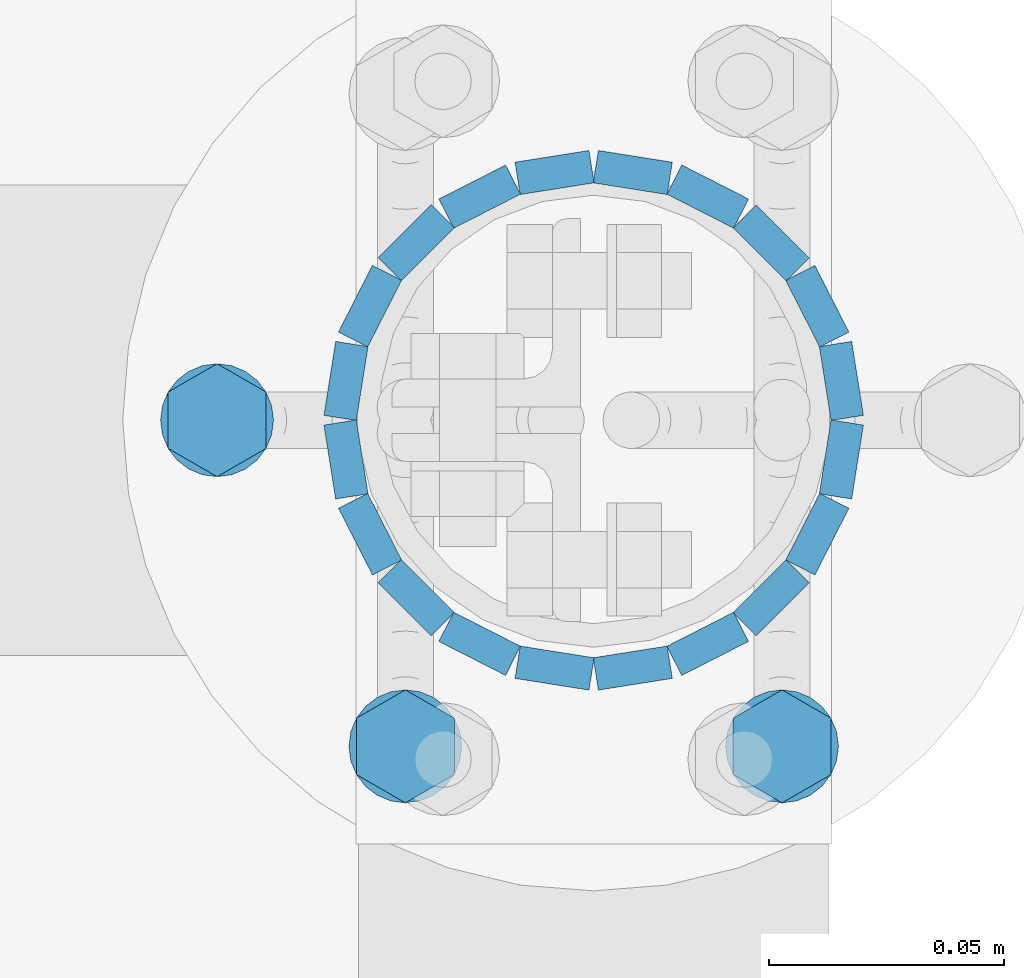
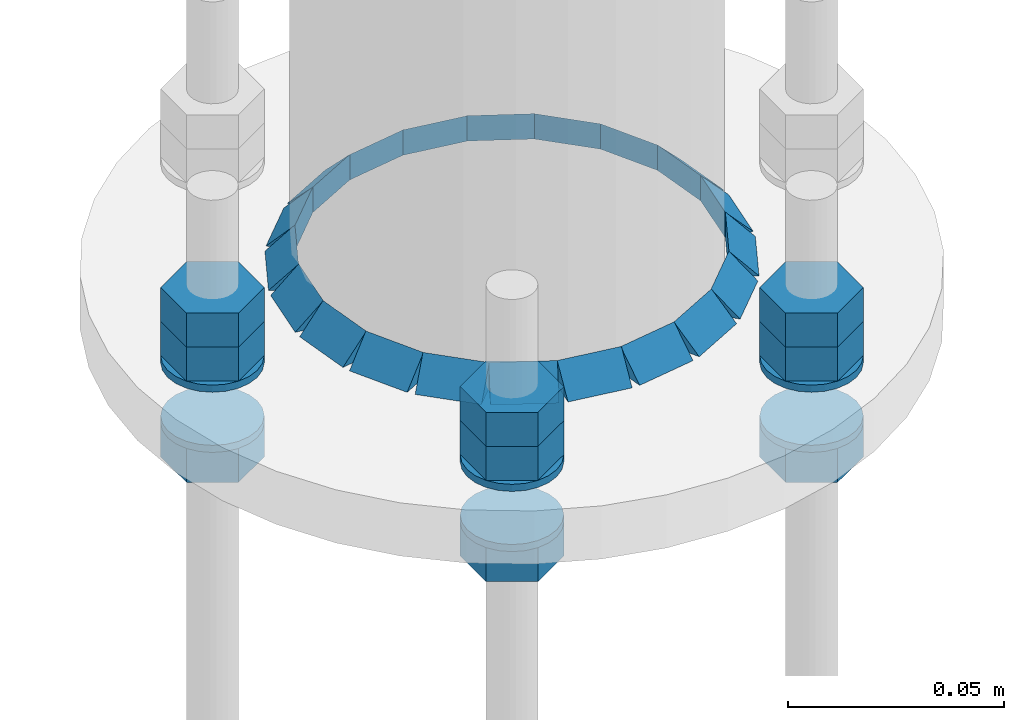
# One storey, part 63 of 84: 40 fasteners, 15 mechanical fasteners.
"""IFC4 building model written with IfcOpenShell, lengths in metres."""

from ifc_helpers import new_model, si_unit, frame, origin_with_axes, place, context, project, spatial, polyline, outline, extrude, type_object, element, save


model = new_model("IFC4")

# Units and contexts
model_context = context("Model", 3, precision=1e-05, world=origin_with_axes())
ifc_project = project(units=[si_unit("LENGTHUNIT", "METRE"), si_unit("AREAUNIT", "SQUARE_METRE"), si_unit("VOLUMEUNIT", "CUBIC_METRE"), si_unit("MASSUNIT", "GRAM", prefix="KILO"), si_unit("TIMEUNIT", "SECOND"), si_unit("PLANEANGLEUNIT", "RADIAN"), si_unit("SOLIDANGLEUNIT", "STERADIAN"), si_unit("THERMODYNAMICTEMPERATUREUNIT", "DEGREE_CELSIUS")], contexts=[model_context])

# Site, building, storey
placement_1 = place(None, origin_with_axes())
site = spatial("IfcSite", under=ifc_project, at=placement_1, Name="Italia", CompositionType="ELEMENT")
building = spatial("IfcBuilding", under=site, at=placement_1, Name="Tettoia", CompositionType="ELEMENT")
storey_placement = place(None, frame((0.0, 0.0, 4.199999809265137), z_axis=(0.0, 0.0, 1.0), x_axis=(1.0, 0.0, 0.0)))
storey = spatial("IfcBuildingStorey", under=building, at=storey_placement, Name="Storey 1", CompositionType="ELEMENT", Elevation=4.199999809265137)

# Fasteners
fastener_type_1 = type_object("IfcFastenerType", Name="Collegamento -010_0110", PredefinedType="WELD")
placement_2 = place(placement_1, origin_with_axes())
fastener_1_placement = place(placement_2, origin_with_axes())
element("IfcFastener", 1, at=fastener_1_placement, inside=storey, type_object=fastener_type_1, Name="Collegamento -010_0110", context=model_context, shape_type="SweptSolid", body=[
    extrude(outline(polyline([(0.0, 0.0), (0.00695705, 0.00717354), (0.00695705, 0.0), (0.0, 0.0)])), frame((11.3067, 10.0248, 4.01495), z_axis=(-0.987678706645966, 0.156495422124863, 0.0), x_axis=(-0.156495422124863, -0.987678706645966, 0.0)), (0.0, 0.0, 1.0), 0.0158991),
])
fastener_type_2 = type_object("IfcFastenerType", Name="Collegamento -010_0110", PredefinedType="WELD")
fastener_2_placement = place(placement_2, origin_with_axes())
element("IfcFastener", 2, at=fastener_2_placement, inside=storey, type_object=fastener_type_2, Name="Collegamento -010_0110", context=model_context, shape_type="SweptSolid", body=[
    extrude(outline(polyline([(0.0, 0.0), (0.00695992, 0.00717354), (0.00695992, 0.0), (0.0, 0.0)])), frame((11.3229, 10.017, 4.01495), z_axis=(-0.891030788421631, 0.453942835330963, 0.0), x_axis=(-0.453942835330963, -0.891030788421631, 0.0)), (0.0, 0.0, 1.0), 0.0158994),
])
fastener_type_3 = type_object("IfcFastenerType", Name="Collegamento -010_0110", PredefinedType="WELD")
fastener_3_placement = place(placement_2, origin_with_axes())
element("IfcFastener", 3, at=fastener_3_placement, inside=storey, type_object=fastener_type_3, Name="Collegamento -010_0110", context=model_context, shape_type="SweptSolid", body=[
    extrude(outline(polyline([(0.0, 0.0), (0.00695801, 0.00717354), (0.00695801, 0.0), (0.0, 0.0)])), frame((11.3358, 10.0045, 4.01495), z_axis=(-0.70710676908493, 0.70710676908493, 0.0), x_axis=(-0.70710676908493, -0.70710676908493, 0.0)), (0.0, 0.0, 1.0), 0.0158998),
])
fastener_type_4 = type_object("IfcFastenerType", Name="Collegamento -010_0110", PredefinedType="WELD")
fastener_4_placement = place(placement_2, origin_with_axes())
element("IfcFastener", 4, at=fastener_4_placement, inside=storey, type_object=fastener_type_4, Name="Collegamento -010_0110", context=model_context, shape_type="SweptSolid", body=[
    extrude(outline(polyline([(0.0, 0.0), (0.00695801, 0.00717354), (0.00695801, 0.0), (0.0, 0.0)])), frame((11.3442, 9.9887, 4.01495), z_axis=(-0.453942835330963, 0.891030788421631, 0.0), x_axis=(-0.891030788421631, -0.453942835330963, 0.0)), (0.0, 0.0, 1.0), 0.0158994),
])
fastener_type_5 = type_object("IfcFastenerType", Name="Collegamento -010_0110", PredefinedType="WELD")
fastener_5_placement = place(placement_2, origin_with_axes())
element("IfcFastener", 5, at=fastener_5_placement, inside=storey, type_object=fastener_type_5, Name="Collegamento -010_0110", context=model_context, shape_type="SweptSolid", body=[
    extrude(outline(polyline([(0.0, 0.0), (0.00695992, 0.00717354), (0.00695992, 0.0), (0.0, 0.0)])), frame((11.3473, 9.97103, 4.01495), z_axis=(-0.156495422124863, 0.987678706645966, 0.0), x_axis=(-0.987678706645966, -0.156495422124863, 0.0)), (0.0, 0.0, 1.0), 0.0158991),
])
fastener_type_6 = type_object("IfcFastenerType", Name="Collegamento -010_0110", PredefinedType="WELD")
fastener_6_placement = place(placement_2, origin_with_axes())
element("IfcFastener", 6, at=fastener_6_placement, inside=storey, type_object=fastener_type_6, Name="Collegamento -010_0110", context=model_context, shape_type="SweptSolid", body=[
    extrude(outline(polyline([(0.0, 0.0), (0.00695801, 0.00717354), (0.00695801, 0.0), (0.0, 0.0)])), frame((11.3448, 9.95327, 4.01495), z_axis=(0.156495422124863, 0.987678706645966, 0.0), x_axis=(-0.987678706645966, 0.156495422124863, 0.0)), (0.0, 0.0, 1.0), 0.0158991),
])
fastener_type_7 = type_object("IfcFastenerType", Name="Collegamento -010_0110", PredefinedType="WELD")
fastener_7_placement = place(placement_2, origin_with_axes())
element("IfcFastener", 7, at=fastener_7_placement, inside=storey, type_object=fastener_type_7, Name="Collegamento -010_0110", context=model_context, shape_type="SweptSolid", body=[
    extrude(outline(polyline([(0.0, 0.0), (0.00695848, 0.00717354), (0.00695848, 0.0), (0.0, 0.0)])), frame((11.337, 9.93714, 4.01495), z_axis=(0.453942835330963, 0.891030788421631, 0.0), x_axis=(-0.891030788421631, 0.453942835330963, 0.0)), (0.0, 0.0, 1.0), 0.0158994),
])
fastener_type_8 = type_object("IfcFastenerType", Name="Collegamento -010_0110", PredefinedType="WELD")
fastener_8_placement = place(placement_2, origin_with_axes())
element("IfcFastener", 8, at=fastener_8_placement, inside=storey, type_object=fastener_type_8, Name="Collegamento -010_0110", context=model_context, shape_type="SweptSolid", body=[
    extrude(outline(polyline([(0.0, 0.0), (0.00695801, 0.00717354), (0.00695801, 0.0), (0.0, 0.0)])), frame((11.3245, 9.92422, 4.01495), z_axis=(0.70710676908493, 0.70710676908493, 0.0), x_axis=(-0.70710676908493, 0.70710676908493, 0.0)), (0.0, 0.0, 1.0), 0.0158998),
])
fastener_type_9 = type_object("IfcFastenerType", Name="Collegamento -010_0110", PredefinedType="WELD")
fastener_9_placement = place(placement_2, origin_with_axes())
element("IfcFastener", 9, at=fastener_9_placement, inside=storey, type_object=fastener_type_9, Name="Collegamento -010_0110", context=model_context, shape_type="SweptSolid", body=[
    extrude(outline(polyline([(0.0, 0.0), (0.00695801, 0.00717354), (0.00695801, 0.0), (0.0, 0.0)])), frame((11.3087, 9.91579, 4.01495), z_axis=(0.891030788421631, 0.453942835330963, 0.0), x_axis=(-0.453942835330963, 0.891030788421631, 0.0)), (0.0, 0.0, 1.0), 0.0158994),
])
fastener_type_10 = type_object("IfcFastenerType", Name="Collegamento -010_0110", PredefinedType="WELD")
fastener_10_placement = place(placement_2, origin_with_axes())
element("IfcFastener", 10, at=fastener_10_placement, inside=storey, type_object=fastener_type_10, Name="Collegamento -010_0110", context=model_context, shape_type="SweptSolid", body=[
    extrude(outline(polyline([(0.0, 0.0), (0.00695801, 0.00717354), (0.00695801, 0.0), (0.0, 0.0)])), frame((11.291, 9.91267, 4.01495), z_axis=(0.987678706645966, 0.156495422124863, 0.0), x_axis=(-0.156495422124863, 0.987678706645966, 0.0)), (0.0, 0.0, 1.0), 0.0158991),
])
fastener_type_11 = type_object("IfcFastenerType", Name="Collegamento -010_0110", PredefinedType="WELD")
fastener_11_placement = place(placement_2, origin_with_axes())
element("IfcFastener", 11, at=fastener_11_placement, inside=storey, type_object=fastener_type_11, Name="Collegamento -010_0110", context=model_context, shape_type="SweptSolid", body=[
    extrude(outline(polyline([(0.0, 0.0), (0.00695705, 0.00717354), (0.00695705, 0.0), (0.0, 0.0)])), frame((11.2733, 9.91516, 4.01495), z_axis=(0.987678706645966, -0.156495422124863, 0.0), x_axis=(0.156495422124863, 0.987678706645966, 0.0)), (0.0, 0.0, 1.0), 0.0158991),
])
fastener_type_12 = type_object("IfcFastenerType", Name="Collegamento -010_0110", PredefinedType="WELD")
fastener_12_placement = place(placement_2, origin_with_axes())
element("IfcFastener", 12, at=fastener_12_placement, inside=storey, type_object=fastener_type_12, Name="Collegamento -010_0110", context=model_context, shape_type="SweptSolid", body=[
    extrude(outline(polyline([(0.0, 0.0), (0.00695896, 0.00717354), (0.00695896, 0.0), (0.0, 0.0)])), frame((11.2571, 9.92301, 4.01495), z_axis=(0.891030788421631, -0.453942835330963, 0.0), x_axis=(0.453942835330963, 0.891030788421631, 0.0)), (0.0, 0.0, 1.0), 0.0158994),
])
fastener_type_13 = type_object("IfcFastenerType", Name="Collegamento -010_0110", PredefinedType="WELD")
fastener_13_placement = place(placement_2, origin_with_axes())
element("IfcFastener", 13, at=fastener_13_placement, inside=storey, type_object=fastener_type_13, Name="Collegamento -010_0110", context=model_context, shape_type="SweptSolid", body=[
    extrude(outline(polyline([(0.0, 0.0), (0.00695801, 0.00717354), (0.00695801, 0.0), (0.0, 0.0)])), frame((11.2442, 9.93547, 4.01495), z_axis=(0.70710676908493, -0.70710676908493, 0.0), x_axis=(0.70710676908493, 0.70710676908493, 0.0)), (0.0, 0.0, 1.0), 0.0158998),
])
fastener_type_14 = type_object("IfcFastenerType", Name="Collegamento -010_0110", PredefinedType="WELD")
fastener_14_placement = place(placement_2, origin_with_axes())
element("IfcFastener", 14, at=fastener_14_placement, inside=storey, type_object=fastener_type_14, Name="Collegamento -010_0110", context=model_context, shape_type="SweptSolid", body=[
    extrude(outline(polyline([(0.0, 0.0), (0.00695992, 0.00717354), (0.00695992, 0.0), (0.0, 0.0)])), frame((11.2358, 9.9513, 4.01495), z_axis=(0.453942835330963, -0.891030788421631, 0.0), x_axis=(0.891030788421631, 0.453942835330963, 0.0)), (0.0, 0.0, 1.0), 0.0158994),
])
fastener_type_15 = type_object("IfcFastenerType", Name="Collegamento -010_0110", PredefinedType="WELD")
fastener_15_placement = place(placement_2, origin_with_axes())
element("IfcFastener", 15, at=fastener_15_placement, inside=storey, type_object=fastener_type_15, Name="Collegamento -010_0110", context=model_context, shape_type="SweptSolid", body=[
    extrude(outline(polyline([(0.0, 0.0), (0.00695896, 0.00717354), (0.00695896, 0.0), (0.0, 0.0)])), frame((11.2327, 9.96897, 4.01495), z_axis=(0.156495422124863, -0.987678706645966, 0.0), x_axis=(0.987678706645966, 0.156495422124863, 0.0)), (0.0, 0.0, 1.0), 0.0158991),
])
fastener_type_16 = type_object("IfcFastenerType", Name="Collegamento -010_0110", PredefinedType="WELD")
fastener_16_placement = place(placement_2, origin_with_axes())
element("IfcFastener", 16, at=fastener_16_placement, inside=storey, type_object=fastener_type_16, Name="Collegamento -010_0110", context=model_context, shape_type="SweptSolid", body=[
    extrude(outline(polyline([(0.0, 0.0), (0.00695801, 0.00717354), (0.00695801, 0.0), (0.0, 0.0)])), frame((11.2352, 9.98674, 4.01495), z_axis=(-0.156495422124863, -0.987678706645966, 0.0), x_axis=(0.987678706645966, -0.156495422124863, 0.0)), (0.0, 0.0, 1.0), 0.0158991),
])
fastener_type_17 = type_object("IfcFastenerType", Name="Collegamento -010_0110", PredefinedType="WELD")
fastener_17_placement = place(placement_2, origin_with_axes())
element("IfcFastener", 17, at=fastener_17_placement, inside=storey, type_object=fastener_type_17, Name="Collegamento -010_0110", context=model_context, shape_type="SweptSolid", body=[
    extrude(outline(polyline([(0.0, 0.0), (0.00695944, 0.00717354), (0.00695944, 0.0), (0.0, 0.0)])), frame((11.243, 10.0029, 4.01495), z_axis=(-0.453942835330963, -0.891030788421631, 0.0), x_axis=(0.891030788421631, -0.453942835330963, 0.0)), (0.0, 0.0, 1.0), 0.0158994),
])
fastener_type_18 = type_object("IfcFastenerType", Name="Collegamento -010_0110", PredefinedType="WELD")
fastener_18_placement = place(placement_2, origin_with_axes())
element("IfcFastener", 18, at=fastener_18_placement, inside=storey, type_object=fastener_type_18, Name="Collegamento -010_0110", context=model_context, shape_type="SweptSolid", body=[
    extrude(outline(polyline([(0.0, 0.0), (0.00695801, 0.00717354), (0.00695801, 0.0), (0.0, 0.0)])), frame((11.2555, 10.0158, 4.01495), z_axis=(-0.70710676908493, -0.70710676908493, 0.0), x_axis=(0.70710676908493, -0.70710676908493, 0.0)), (0.0, 0.0, 1.0), 0.0158998),
])
fastener_type_19 = type_object("IfcFastenerType", Name="Collegamento -010_0110", PredefinedType="WELD")
fastener_19_placement = place(placement_2, origin_with_axes())
element("IfcFastener", 19, at=fastener_19_placement, inside=storey, type_object=fastener_type_19, Name="Collegamento -010_0110", context=model_context, shape_type="SweptSolid", body=[
    extrude(outline(polyline([(0.0, 0.0), (0.00695753, 0.00717354), (0.00695753, 0.0), (0.0, 0.0)])), frame((11.2713, 10.0242, 4.01495), z_axis=(-0.891030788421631, -0.453942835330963, 0.0), x_axis=(0.453942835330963, -0.891030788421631, 0.0)), (0.0, 0.0, 1.0), 0.0158994),
])
fastener_type_20 = type_object("IfcFastenerType", Name="Collegamento -010_0110", PredefinedType="WELD")
fastener_20_placement = place(placement_2, origin_with_axes())
element("IfcFastener", 20, at=fastener_20_placement, inside=storey, type_object=fastener_type_20, Name="Collegamento -010_0110", context=model_context, shape_type="SweptSolid", body=[
    extrude(outline(polyline([(0.0, 0.0), (0.00695801, 0.00717354), (0.00695801, 0.0), (0.0, 0.0)])), frame((11.289, 10.0273, 4.01495), z_axis=(-0.987678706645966, -0.156495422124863, 0.0), x_axis=(0.156495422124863, -0.987678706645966, 0.0)), (0.0, 0.0, 1.0), 0.0158991),
])
fastener_type_21 = type_object("IfcFastenerType", Name="Collegamento -010_0110", PredefinedType="WELD")
fastener_21_placement = place(placement_2, origin_with_axes())
element("IfcFastener", 21, at=fastener_21_placement, inside=storey, type_object=fastener_type_21, Name="Collegamento -010_0110", context=model_context, shape_type="SweptSolid", body=[
    extrude(outline(polyline([(0.0, 0.0), (0.00695705, 0.00717354), (0.00695705, 0.0), (0.0, 0.0)])), frame((11.3067, 10.0248, 4.01495), z_axis=(-0.987678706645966, 0.156495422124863, 0.0), x_axis=(-0.156495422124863, -0.987678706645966, 0.0)), (0.0, 0.0, 1.0), 0.0158991),
])
fastener_type_22 = type_object("IfcFastenerType", Name="Collegamento -010_0110", PredefinedType="WELD")
fastener_22_placement = place(placement_2, origin_with_axes())
element("IfcFastener", 22, at=fastener_22_placement, inside=storey, type_object=fastener_type_22, Name="Collegamento -010_0110", context=model_context, shape_type="SweptSolid", body=[
    extrude(outline(polyline([(0.0, 0.0), (0.00695992, 0.00717354), (0.00695992, 0.0), (0.0, 0.0)])), frame((11.3229, 10.017, 4.01495), z_axis=(-0.891030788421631, 0.453942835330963, 0.0), x_axis=(-0.453942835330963, -0.891030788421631, 0.0)), (0.0, 0.0, 1.0), 0.0158994),
])
fastener_type_23 = type_object("IfcFastenerType", Name="Collegamento -010_0110", PredefinedType="WELD")
fastener_23_placement = place(placement_2, origin_with_axes())
element("IfcFastener", 23, at=fastener_23_placement, inside=storey, type_object=fastener_type_23, Name="Collegamento -010_0110", context=model_context, shape_type="SweptSolid", body=[
    extrude(outline(polyline([(0.0, 0.0), (0.00695801, 0.00717354), (0.00695801, 0.0), (0.0, 0.0)])), frame((11.3358, 10.0045, 4.01495), z_axis=(-0.70710676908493, 0.70710676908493, 0.0), x_axis=(-0.70710676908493, -0.70710676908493, 0.0)), (0.0, 0.0, 1.0), 0.0158998),
])
fastener_type_24 = type_object("IfcFastenerType", Name="Collegamento -010_0110", PredefinedType="WELD")
fastener_24_placement = place(placement_2, origin_with_axes())
element("IfcFastener", 24, at=fastener_24_placement, inside=storey, type_object=fastener_type_24, Name="Collegamento -010_0110", context=model_context, shape_type="SweptSolid", body=[
    extrude(outline(polyline([(0.0, 0.0), (0.00695801, 0.00717354), (0.00695801, 0.0), (0.0, 0.0)])), frame((11.3442, 9.9887, 4.01495), z_axis=(-0.453942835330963, 0.891030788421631, 0.0), x_axis=(-0.891030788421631, -0.453942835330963, 0.0)), (0.0, 0.0, 1.0), 0.0158994),
])
fastener_type_25 = type_object("IfcFastenerType", Name="Collegamento -010_0110", PredefinedType="WELD")
fastener_25_placement = place(placement_2, origin_with_axes())
element("IfcFastener", 25, at=fastener_25_placement, inside=storey, type_object=fastener_type_25, Name="Collegamento -010_0110", context=model_context, shape_type="SweptSolid", body=[
    extrude(outline(polyline([(0.0, 0.0), (0.00695992, 0.00717354), (0.00695992, 0.0), (0.0, 0.0)])), frame((11.3473, 9.97103, 4.01495), z_axis=(-0.156495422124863, 0.987678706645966, 0.0), x_axis=(-0.987678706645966, -0.156495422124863, 0.0)), (0.0, 0.0, 1.0), 0.0158991),
])
fastener_type_26 = type_object("IfcFastenerType", Name="Collegamento -010_0110", PredefinedType="WELD")
fastener_26_placement = place(placement_2, origin_with_axes())
element("IfcFastener", 26, at=fastener_26_placement, inside=storey, type_object=fastener_type_26, Name="Collegamento -010_0110", context=model_context, shape_type="SweptSolid", body=[
    extrude(outline(polyline([(0.0, 0.0), (0.00695801, 0.00717354), (0.00695801, 0.0), (0.0, 0.0)])), frame((11.3448, 9.95327, 4.01495), z_axis=(0.156495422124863, 0.987678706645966, 0.0), x_axis=(-0.987678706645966, 0.156495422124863, 0.0)), (0.0, 0.0, 1.0), 0.0158991),
])
fastener_type_27 = type_object("IfcFastenerType", Name="Collegamento -010_0110", PredefinedType="WELD")
fastener_27_placement = place(placement_2, origin_with_axes())
element("IfcFastener", 27, at=fastener_27_placement, inside=storey, type_object=fastener_type_27, Name="Collegamento -010_0110", context=model_context, shape_type="SweptSolid", body=[
    extrude(outline(polyline([(0.0, 0.0), (0.00695848, 0.00717354), (0.00695848, 0.0), (0.0, 0.0)])), frame((11.337, 9.93714, 4.01495), z_axis=(0.453942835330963, 0.891030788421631, 0.0), x_axis=(-0.891030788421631, 0.453942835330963, 0.0)), (0.0, 0.0, 1.0), 0.0158994),
])
fastener_type_28 = type_object("IfcFastenerType", Name="Collegamento -010_0110", PredefinedType="WELD")
fastener_28_placement = place(placement_2, origin_with_axes())
element("IfcFastener", 28, at=fastener_28_placement, inside=storey, type_object=fastener_type_28, Name="Collegamento -010_0110", context=model_context, shape_type="SweptSolid", body=[
    extrude(outline(polyline([(0.0, 0.0), (0.00695801, 0.00717354), (0.00695801, 0.0), (0.0, 0.0)])), frame((11.3245, 9.92422, 4.01495), z_axis=(0.70710676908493, 0.70710676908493, 0.0), x_axis=(-0.70710676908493, 0.70710676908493, 0.0)), (0.0, 0.0, 1.0), 0.0158998),
])
fastener_type_29 = type_object("IfcFastenerType", Name="Collegamento -010_0110", PredefinedType="WELD")
fastener_29_placement = place(placement_2, origin_with_axes())
element("IfcFastener", 29, at=fastener_29_placement, inside=storey, type_object=fastener_type_29, Name="Collegamento -010_0110", context=model_context, shape_type="SweptSolid", body=[
    extrude(outline(polyline([(0.0, 0.0), (0.00695801, 0.00717354), (0.00695801, 0.0), (0.0, 0.0)])), frame((11.3087, 9.91579, 4.01495), z_axis=(0.891030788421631, 0.453942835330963, 0.0), x_axis=(-0.453942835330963, 0.891030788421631, 0.0)), (0.0, 0.0, 1.0), 0.0158994),
])
fastener_type_30 = type_object("IfcFastenerType", Name="Collegamento -010_0110", PredefinedType="WELD")
fastener_30_placement = place(placement_2, origin_with_axes())
element("IfcFastener", 30, at=fastener_30_placement, inside=storey, type_object=fastener_type_30, Name="Collegamento -010_0110", context=model_context, shape_type="SweptSolid", body=[
    extrude(outline(polyline([(0.0, 0.0), (0.00695801, 0.00717354), (0.00695801, 0.0), (0.0, 0.0)])), frame((11.291, 9.91267, 4.01495), z_axis=(0.987678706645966, 0.156495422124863, 0.0), x_axis=(-0.156495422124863, 0.987678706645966, 0.0)), (0.0, 0.0, 1.0), 0.0158991),
])
fastener_type_31 = type_object("IfcFastenerType", Name="Collegamento -010_0110", PredefinedType="WELD")
fastener_31_placement = place(placement_2, origin_with_axes())
element("IfcFastener", 31, at=fastener_31_placement, inside=storey, type_object=fastener_type_31, Name="Collegamento -010_0110", context=model_context, shape_type="SweptSolid", body=[
    extrude(outline(polyline([(0.0, 0.0), (0.00695705, 0.00717354), (0.00695705, 0.0), (0.0, 0.0)])), frame((11.2733, 9.91516, 4.01495), z_axis=(0.987678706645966, -0.156495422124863, 0.0), x_axis=(0.156495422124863, 0.987678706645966, 0.0)), (0.0, 0.0, 1.0), 0.0158991),
])
fastener_type_32 = type_object("IfcFastenerType", Name="Collegamento -010_0110", PredefinedType="WELD")
fastener_32_placement = place(placement_2, origin_with_axes())
element("IfcFastener", 32, at=fastener_32_placement, inside=storey, type_object=fastener_type_32, Name="Collegamento -010_0110", context=model_context, shape_type="SweptSolid", body=[
    extrude(outline(polyline([(0.0, 0.0), (0.00695896, 0.00717354), (0.00695896, 0.0), (0.0, 0.0)])), frame((11.2571, 9.92301, 4.01495), z_axis=(0.891030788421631, -0.453942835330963, 0.0), x_axis=(0.453942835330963, 0.891030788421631, 0.0)), (0.0, 0.0, 1.0), 0.0158994),
])
fastener_type_33 = type_object("IfcFastenerType", Name="Collegamento -010_0110", PredefinedType="WELD")
fastener_33_placement = place(placement_2, origin_with_axes())
element("IfcFastener", 33, at=fastener_33_placement, inside=storey, type_object=fastener_type_33, Name="Collegamento -010_0110", context=model_context, shape_type="SweptSolid", body=[
    extrude(outline(polyline([(0.0, 0.0), (0.00695801, 0.00717354), (0.00695801, 0.0), (0.0, 0.0)])), frame((11.2442, 9.93547, 4.01495), z_axis=(0.70710676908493, -0.70710676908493, 0.0), x_axis=(0.70710676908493, 0.70710676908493, 0.0)), (0.0, 0.0, 1.0), 0.0158998),
])
fastener_type_34 = type_object("IfcFastenerType", Name="Collegamento -010_0110", PredefinedType="WELD")
fastener_34_placement = place(placement_2, origin_with_axes())
element("IfcFastener", 34, at=fastener_34_placement, inside=storey, type_object=fastener_type_34, Name="Collegamento -010_0110", context=model_context, shape_type="SweptSolid", body=[
    extrude(outline(polyline([(0.0, 0.0), (0.00695992, 0.00717354), (0.00695992, 0.0), (0.0, 0.0)])), frame((11.2358, 9.9513, 4.01495), z_axis=(0.453942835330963, -0.891030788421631, 0.0), x_axis=(0.891030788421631, 0.453942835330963, 0.0)), (0.0, 0.0, 1.0), 0.0158994),
])
fastener_type_35 = type_object("IfcFastenerType", Name="Collegamento -010_0110", PredefinedType="WELD")
fastener_35_placement = place(placement_2, origin_with_axes())
element("IfcFastener", 35, at=fastener_35_placement, inside=storey, type_object=fastener_type_35, Name="Collegamento -010_0110", context=model_context, shape_type="SweptSolid", body=[
    extrude(outline(polyline([(0.0, 0.0), (0.00695896, 0.00717354), (0.00695896, 0.0), (0.0, 0.0)])), frame((11.2327, 9.96897, 4.01495), z_axis=(0.156495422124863, -0.987678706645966, 0.0), x_axis=(0.987678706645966, 0.156495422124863, 0.0)), (0.0, 0.0, 1.0), 0.0158991),
])
fastener_type_36 = type_object("IfcFastenerType", Name="Collegamento -010_0110", PredefinedType="WELD")
fastener_36_placement = place(placement_2, origin_with_axes())
element("IfcFastener", 36, at=fastener_36_placement, inside=storey, type_object=fastener_type_36, Name="Collegamento -010_0110", context=model_context, shape_type="SweptSolid", body=[
    extrude(outline(polyline([(0.0, 0.0), (0.00695801, 0.00717354), (0.00695801, 0.0), (0.0, 0.0)])), frame((11.2352, 9.98674, 4.01495), z_axis=(-0.156495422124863, -0.987678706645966, 0.0), x_axis=(0.987678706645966, -0.156495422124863, 0.0)), (0.0, 0.0, 1.0), 0.0158991),
])
fastener_type_37 = type_object("IfcFastenerType", Name="Collegamento -010_0110", PredefinedType="WELD")
fastener_37_placement = place(placement_2, origin_with_axes())
element("IfcFastener", 37, at=fastener_37_placement, inside=storey, type_object=fastener_type_37, Name="Collegamento -010_0110", context=model_context, shape_type="SweptSolid", body=[
    extrude(outline(polyline([(0.0, 0.0), (0.00695944, 0.00717354), (0.00695944, 0.0), (0.0, 0.0)])), frame((11.243, 10.0029, 4.01495), z_axis=(-0.453942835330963, -0.891030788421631, 0.0), x_axis=(0.891030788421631, -0.453942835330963, 0.0)), (0.0, 0.0, 1.0), 0.0158994),
])
fastener_type_38 = type_object("IfcFastenerType", Name="Collegamento -010_0110", PredefinedType="WELD")
fastener_38_placement = place(placement_2, origin_with_axes())
element("IfcFastener", 38, at=fastener_38_placement, inside=storey, type_object=fastener_type_38, Name="Collegamento -010_0110", context=model_context, shape_type="SweptSolid", body=[
    extrude(outline(polyline([(0.0, 0.0), (0.00695801, 0.00717354), (0.00695801, 0.0), (0.0, 0.0)])), frame((11.2555, 10.0158, 4.01495), z_axis=(-0.70710676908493, -0.70710676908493, 0.0), x_axis=(0.70710676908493, -0.70710676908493, 0.0)), (0.0, 0.0, 1.0), 0.0158998),
])
fastener_type_39 = type_object("IfcFastenerType", Name="Collegamento -010_0110", PredefinedType="WELD")
fastener_39_placement = place(placement_2, origin_with_axes())
element("IfcFastener", 39, at=fastener_39_placement, inside=storey, type_object=fastener_type_39, Name="Collegamento -010_0110", context=model_context, shape_type="SweptSolid", body=[
    extrude(outline(polyline([(0.0, 0.0), (0.00695753, 0.00717354), (0.00695753, 0.0), (0.0, 0.0)])), frame((11.2713, 10.0242, 4.01495), z_axis=(-0.891030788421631, -0.453942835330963, 0.0), x_axis=(0.453942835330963, -0.891030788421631, 0.0)), (0.0, 0.0, 1.0), 0.0158994),
])
fastener_type_40 = type_object("IfcFastenerType", Name="Collegamento -010_0110", PredefinedType="WELD")
fastener_40_placement = place(placement_2, origin_with_axes())
element("IfcFastener", 40, at=fastener_40_placement, inside=storey, type_object=fastener_type_40, Name="Collegamento -010_0110", context=model_context, shape_type="SweptSolid", body=[
    extrude(outline(polyline([(0.0, 0.0), (0.00695801, 0.00717354), (0.00695801, 0.0), (0.0, 0.0)])), frame((11.289, 10.0273, 4.01495), z_axis=(-0.987678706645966, -0.156495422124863, 0.0), x_axis=(0.156495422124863, -0.987678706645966, 0.0)), (0.0, 0.0, 1.0), 0.0158991),
])

# Mechanical fasteners
mechanical_fastener_type_1 = type_object("IfcMechanicalFastenerType", Name="Collegamento -010_0110", PredefinedType="BOLT")
mechanical_fastener_1_placement = place(placement_2, origin_with_axes())
element("IfcMechanicalFastener", 41, at=mechanical_fastener_1_placement, inside=storey, type_object=mechanical_fastener_type_1, Name="Collegamento -010_0110", NominalDiameter=0.0119991, context=model_context, shape_type="SweptSolid", body=[
    extrude(outline(polyline([(0.0, 0.0), (-0.0119991, 0.0), (-0.0179996, 0.0103922), (-0.0119991, 0.0207844), (0.0, 0.0207844), (0.00600052, 0.0103922), (0.0, 0.0)])), frame((11.2204, 9.976, 4.017), z_axis=(0.0, 0.0, 1.0), x_axis=(0.0, 1.0, 0.0)), (0.0, 0.0, 1.0), 0.00959969),
])
mechanical_fastener_type_2 = type_object("IfcMechanicalFastenerType", Name="Collegamento -010_0110", PredefinedType="BOLT")
mechanical_fastener_2_placement = place(placement_2, origin_with_axes())
element("IfcMechanicalFastener", 42, at=mechanical_fastener_2_placement, inside=storey, type_object=mechanical_fastener_type_2, Name="Collegamento -010_0110", NominalDiameter=0.0119991, context=model_context, shape_type="SweptSolid", body=[
    extrude(outline(polyline([(0.0, 0.0), (-0.0119991, 0.0), (-0.0179996, 0.0103922), (-0.0119991, 0.0207844), (0.0, 0.0207844), (0.00600052, 0.0103922), (0.0, 0.0)])), frame((11.2204, 9.976, 4.0266), z_axis=(0.0, 0.0, 1.0), x_axis=(0.0, 1.0, 0.0)), (0.0, 0.0, 1.0), 0.00960016),
])
mechanical_fastener_type_3 = type_object("IfcMechanicalFastenerType", Name="Collegamento -010_0110", PredefinedType="BOLT")
mechanical_fastener_3_placement = place(placement_2, origin_with_axes())
element("IfcMechanicalFastener", 43, at=mechanical_fastener_3_placement, inside=storey, type_object=mechanical_fastener_type_3, Name="Collegamento -010_0110", NominalDiameter=0.0119991, context=model_context, shape_type="SweptSolid", body=[
    extrude(outline(polyline([(0.0, 0.0), (-0.0119991, 0.0), (-0.0179996, 0.0103922), (-0.0119991, 0.0207844), (0.0, 0.0207844), (0.00600052, 0.0103922), (0.0, 0.0)])), frame((11.2204, 9.976, 3.9884), z_axis=(0.0, 0.0, 1.0), x_axis=(0.0, 1.0, 0.0)), (0.0, 0.0, 1.0), 0.00959992),
])
mechanical_fastener_type_4 = type_object("IfcMechanicalFastenerType", Name="Collegamento -010_0110", PredefinedType="BOLT")
mechanical_fastener_4_placement = place(placement_2, origin_with_axes())
element("IfcMechanicalFastener", 44, at=mechanical_fastener_4_placement, inside=storey, type_object=mechanical_fastener_type_4, Name="Collegamento -010_0110", NominalDiameter=0.024, context=model_context, shape_type="SweptSolid", body=[
    extrude(outline(polyline([(0.0, 0.0), (-0.000409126, -0.00310612), (-0.00160789, -0.00599957), (-0.00351524, -0.00848484), (-0.00600052, -0.0103922), (-0.00889397, -0.011591), (-0.0120001, -0.0120001), (-0.0151062, -0.011591), (-0.0179996, -0.0103922), (-0.0204849, -0.00848484), (-0.0223923, -0.00599957), (-0.023591, -0.00310612), (-0.0240002, 0.0), (-0.023591, 0.00310612), (-0.0223923, 0.00599957), (-0.0204849, 0.00848484), (-0.0179996, 0.0103922), (-0.0151062, 0.011591), (-0.0120001, 0.0120001), (-0.00889397, 0.011591), (-0.00600052, 0.0103922), (-0.00351524, 0.00848484), (-0.00160789, 0.00599957), (-0.000409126, 0.00310612), (0.0, 0.0)])), frame((11.21, 9.982, 4.015), z_axis=(0.0, 0.0, 1.0), x_axis=(0.0, 1.0, 0.0)), (0.0, 0.0, 1.0), 0.00200033),
])
mechanical_fastener_type_5 = type_object("IfcMechanicalFastenerType", Name="Collegamento -010_0110", PredefinedType="BOLT")
mechanical_fastener_5_placement = place(placement_2, origin_with_axes())
element("IfcMechanicalFastener", 45, at=mechanical_fastener_5_placement, inside=storey, type_object=mechanical_fastener_type_5, Name="Collegamento -010_0110", NominalDiameter=0.024, context=model_context, shape_type="SweptSolid", body=[
    extrude(outline(polyline([(0.0, 0.0), (-0.000409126, -0.00310612), (-0.00160789, -0.00599957), (-0.00351524, -0.00848484), (-0.00600052, -0.0103922), (-0.00889397, -0.011591), (-0.0120001, -0.0120001), (-0.0151062, -0.011591), (-0.0179996, -0.0103922), (-0.0204849, -0.00848484), (-0.0223923, -0.00599957), (-0.023591, -0.00310612), (-0.0240002, 0.0), (-0.023591, 0.00310612), (-0.0223923, 0.00599957), (-0.0204849, 0.00848484), (-0.0179996, 0.0103922), (-0.0151062, 0.011591), (-0.0120001, 0.0120001), (-0.00889397, 0.011591), (-0.00600052, 0.0103922), (-0.00351524, 0.00848484), (-0.00160789, 0.00599957), (-0.000409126, 0.00310612), (0.0, 0.0)])), frame((11.21, 9.982, 3.998), z_axis=(0.0, 0.0, 1.0), x_axis=(0.0, 1.0, 0.0)), (0.0, 0.0, 1.0), 0.00200009),
])
mechanical_fastener_type_6 = type_object("IfcMechanicalFastenerType", Name="Collegamento -010_0110", PredefinedType="BOLT")
mechanical_fastener_6_placement = place(placement_2, origin_with_axes())
element("IfcMechanicalFastener", 46, at=mechanical_fastener_6_placement, inside=storey, type_object=mechanical_fastener_type_6, Name="Collegamento -010_0110", NominalDiameter=0.0119997, context=model_context, shape_type="SweptSolid", body=[
    extrude(outline(polyline([(0.0, 0.0), (-0.0120001, 0.0), (-0.0179996, 0.0103922), (-0.0120001, 0.0207844), (0.0, 0.0207844), (0.00599957, 0.0103922), (0.0, 0.0)])), frame((11.2604, 9.90672, 4.017), z_axis=(0.0, 0.0, 1.0), x_axis=(0.0, 1.0, 0.0)), (0.0, 0.0, 1.0), 0.00959969),
])
mechanical_fastener_type_7 = type_object("IfcMechanicalFastenerType", Name="Collegamento -010_0110", PredefinedType="BOLT")
mechanical_fastener_7_placement = place(placement_2, origin_with_axes())
element("IfcMechanicalFastener", 47, at=mechanical_fastener_7_placement, inside=storey, type_object=mechanical_fastener_type_7, Name="Collegamento -010_0110", NominalDiameter=0.0119997, context=model_context, shape_type="SweptSolid", body=[
    extrude(outline(polyline([(0.0, 0.0), (-0.0120001, 0.0), (-0.0179996, 0.0103922), (-0.0120001, 0.0207844), (0.0, 0.0207844), (0.00599957, 0.0103922), (0.0, 0.0)])), frame((11.2604, 9.90672, 4.0266), z_axis=(0.0, 0.0, 1.0), x_axis=(0.0, 1.0, 0.0)), (0.0, 0.0, 1.0), 0.00960016),
])
mechanical_fastener_type_8 = type_object("IfcMechanicalFastenerType", Name="Collegamento -010_0110", PredefinedType="BOLT")
mechanical_fastener_8_placement = place(placement_2, origin_with_axes())
element("IfcMechanicalFastener", 48, at=mechanical_fastener_8_placement, inside=storey, type_object=mechanical_fastener_type_8, Name="Collegamento -010_0110", NominalDiameter=0.0119997, context=model_context, shape_type="SweptSolid", body=[
    extrude(outline(polyline([(0.0, 0.0), (-0.0120001, 0.0), (-0.0179996, 0.0103922), (-0.0120001, 0.0207844), (0.0, 0.0207844), (0.00599957, 0.0103922), (0.0, 0.0)])), frame((11.2604, 9.90672, 3.9884), z_axis=(0.0, 0.0, 1.0), x_axis=(0.0, 1.0, 0.0)), (0.0, 0.0, 1.0), 0.00959992),
])
mechanical_fastener_type_9 = type_object("IfcMechanicalFastenerType", Name="Collegamento -010_0110", PredefinedType="BOLT")
mechanical_fastener_9_placement = place(placement_2, origin_with_axes())
element("IfcMechanicalFastener", 49, at=mechanical_fastener_9_placement, inside=storey, type_object=mechanical_fastener_type_9, Name="Collegamento -010_0110", NominalDiameter=0.024, context=model_context, shape_type="SweptSolid", body=[
    extrude(outline(polyline([(0.0, 0.0), (-0.000409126, -0.00310612), (-0.00160789, -0.00599957), (-0.00351524, -0.00848484), (-0.00600052, -0.0103922), (-0.00889397, -0.011591), (-0.0120001, -0.0120001), (-0.0151062, -0.011591), (-0.0179996, -0.0103922), (-0.0204849, -0.00848484), (-0.0223923, -0.00599957), (-0.023591, -0.00310612), (-0.0240002, 0.0), (-0.023591, 0.00310612), (-0.0223923, 0.00599957), (-0.0204849, 0.00848484), (-0.0179996, 0.0103922), (-0.0151062, 0.011591), (-0.0120001, 0.0120001), (-0.00889397, 0.011591), (-0.00600052, 0.0103922), (-0.00351524, 0.00848484), (-0.00160789, 0.00599957), (-0.000409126, 0.00310612), (0.0, 0.0)])), frame((11.25, 9.91272, 4.015), z_axis=(0.0, 0.0, 1.0), x_axis=(0.0, 1.0, 0.0)), (0.0, 0.0, 1.0), 0.00200033),
])
mechanical_fastener_type_10 = type_object("IfcMechanicalFastenerType", Name="Collegamento -010_0110", PredefinedType="BOLT")
mechanical_fastener_10_placement = place(placement_2, origin_with_axes())
element("IfcMechanicalFastener", 50, at=mechanical_fastener_10_placement, inside=storey, type_object=mechanical_fastener_type_10, Name="Collegamento -010_0110", NominalDiameter=0.024, context=model_context, shape_type="SweptSolid", body=[
    extrude(outline(polyline([(0.0, 0.0), (-0.000409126, -0.00310612), (-0.00160789, -0.00599957), (-0.00351524, -0.00848484), (-0.00600052, -0.0103922), (-0.00889397, -0.011591), (-0.0120001, -0.0120001), (-0.0151062, -0.011591), (-0.0179996, -0.0103922), (-0.0204849, -0.00848484), (-0.0223923, -0.00599957), (-0.023591, -0.00310612), (-0.0240002, 0.0), (-0.023591, 0.00310612), (-0.0223923, 0.00599957), (-0.0204849, 0.00848484), (-0.0179996, 0.0103922), (-0.0151062, 0.011591), (-0.0120001, 0.0120001), (-0.00889397, 0.011591), (-0.00600052, 0.0103922), (-0.00351524, 0.00848484), (-0.00160789, 0.00599957), (-0.000409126, 0.00310612), (0.0, 0.0)])), frame((11.25, 9.91272, 3.998), z_axis=(0.0, 0.0, 1.0), x_axis=(0.0, 1.0, 0.0)), (0.0, 0.0, 1.0), 0.00200009),
])
mechanical_fastener_type_11 = type_object("IfcMechanicalFastenerType", Name="Collegamento -010_0110", PredefinedType="BOLT")
mechanical_fastener_11_placement = place(placement_2, origin_with_axes())
element("IfcMechanicalFastener", 51, at=mechanical_fastener_11_placement, inside=storey, type_object=mechanical_fastener_type_11, Name="Collegamento -010_0110", NominalDiameter=0.0119997, context=model_context, shape_type="SweptSolid", body=[
    extrude(outline(polyline([(0.0, 0.0), (-0.0120001, 0.0), (-0.0179996, 0.0103922), (-0.0120001, 0.0207844), (0.0, 0.0207844), (0.00599957, 0.0103922), (0.0, 0.0)])), frame((11.3404, 9.90672, 4.017), z_axis=(0.0, 0.0, 1.0), x_axis=(0.0, 1.0, 0.0)), (0.0, 0.0, 1.0), 0.00959969),
])
mechanical_fastener_type_12 = type_object("IfcMechanicalFastenerType", Name="Collegamento -010_0110", PredefinedType="BOLT")
mechanical_fastener_12_placement = place(placement_2, origin_with_axes())
element("IfcMechanicalFastener", 52, at=mechanical_fastener_12_placement, inside=storey, type_object=mechanical_fastener_type_12, Name="Collegamento -010_0110", NominalDiameter=0.0119997, context=model_context, shape_type="SweptSolid", body=[
    extrude(outline(polyline([(0.0, 0.0), (-0.0120001, 0.0), (-0.0179996, 0.0103922), (-0.0120001, 0.0207844), (0.0, 0.0207844), (0.00599957, 0.0103922), (0.0, 0.0)])), frame((11.3404, 9.90672, 4.0266), z_axis=(0.0, 0.0, 1.0), x_axis=(0.0, 1.0, 0.0)), (0.0, 0.0, 1.0), 0.00960016),
])
mechanical_fastener_type_13 = type_object("IfcMechanicalFastenerType", Name="Collegamento -010_0110", PredefinedType="BOLT")
mechanical_fastener_13_placement = place(placement_2, origin_with_axes())
element("IfcMechanicalFastener", 53, at=mechanical_fastener_13_placement, inside=storey, type_object=mechanical_fastener_type_13, Name="Collegamento -010_0110", NominalDiameter=0.0119997, context=model_context, shape_type="SweptSolid", body=[
    extrude(outline(polyline([(0.0, 0.0), (-0.0120001, 0.0), (-0.0179996, 0.0103922), (-0.0120001, 0.0207844), (0.0, 0.0207844), (0.00599957, 0.0103922), (0.0, 0.0)])), frame((11.3404, 9.90672, 3.9884), z_axis=(0.0, 0.0, 1.0), x_axis=(0.0, 1.0, 0.0)), (0.0, 0.0, 1.0), 0.00959992),
])
mechanical_fastener_type_14 = type_object("IfcMechanicalFastenerType", Name="Collegamento -010_0110", PredefinedType="BOLT")
mechanical_fastener_14_placement = place(placement_2, origin_with_axes())
element("IfcMechanicalFastener", 54, at=mechanical_fastener_14_placement, inside=storey, type_object=mechanical_fastener_type_14, Name="Collegamento -010_0110", NominalDiameter=0.024, context=model_context, shape_type="SweptSolid", body=[
    extrude(outline(polyline([(0.0, 0.0), (-0.000409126, -0.00310612), (-0.00160789, -0.00599957), (-0.00351524, -0.00848484), (-0.00600052, -0.0103922), (-0.00889397, -0.011591), (-0.0120001, -0.0120001), (-0.0151062, -0.011591), (-0.0179996, -0.0103922), (-0.0204849, -0.00848484), (-0.0223923, -0.00599957), (-0.023591, -0.00310612), (-0.0240002, 0.0), (-0.023591, 0.00310612), (-0.0223923, 0.00599957), (-0.0204849, 0.00848484), (-0.0179996, 0.0103922), (-0.0151062, 0.011591), (-0.0120001, 0.0120001), (-0.00889397, 0.011591), (-0.00600052, 0.0103922), (-0.00351524, 0.00848484), (-0.00160789, 0.00599957), (-0.000409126, 0.00310612), (0.0, 0.0)])), frame((11.33, 9.91272, 4.015), z_axis=(0.0, 0.0, 1.0), x_axis=(0.0, 1.0, 0.0)), (0.0, 0.0, 1.0), 0.00200033),
])
mechanical_fastener_type_15 = type_object("IfcMechanicalFastenerType", Name="Collegamento -010_0110", PredefinedType="BOLT")
mechanical_fastener_15_placement = place(placement_2, origin_with_axes())
element("IfcMechanicalFastener", 55, at=mechanical_fastener_15_placement, inside=storey, type_object=mechanical_fastener_type_15, Name="Collegamento -010_0110", NominalDiameter=0.024, context=model_context, shape_type="SweptSolid", body=[
    extrude(outline(polyline([(0.0, 0.0), (-0.000409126, -0.00310612), (-0.00160789, -0.00599957), (-0.00351524, -0.00848484), (-0.00600052, -0.0103922), (-0.00889397, -0.011591), (-0.0120001, -0.0120001), (-0.0151062, -0.011591), (-0.0179996, -0.0103922), (-0.0204849, -0.00848484), (-0.0223923, -0.00599957), (-0.023591, -0.00310612), (-0.0240002, 0.0), (-0.023591, 0.00310612), (-0.0223923, 0.00599957), (-0.0204849, 0.00848484), (-0.0179996, 0.0103922), (-0.0151062, 0.011591), (-0.0120001, 0.0120001), (-0.00889397, 0.011591), (-0.00600052, 0.0103922), (-0.00351524, 0.00848484), (-0.00160789, 0.00599957), (-0.000409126, 0.00310612), (0.0, 0.0)])), frame((11.33, 9.91272, 3.998), z_axis=(0.0, 0.0, 1.0), x_axis=(0.0, 1.0, 0.0)), (0.0, 0.0, 1.0), 0.00200009),
])

save(model, "model.ifc")
